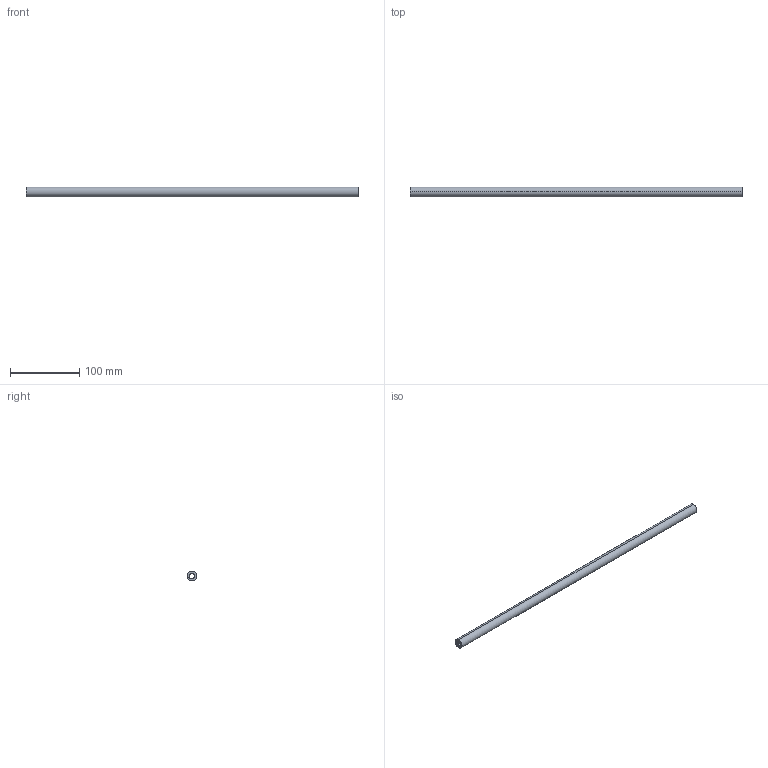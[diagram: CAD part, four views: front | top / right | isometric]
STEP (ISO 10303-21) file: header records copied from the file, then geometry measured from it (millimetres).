
FILE_DESCRIPTION (( 'STEP AP214' ), '1' );
FILE_NAME ('SyncronisationsstangeNova_Pro_KAB_0600_KS16.step', '2009-11-24T08:53:16', ( 'Grass' ), ( 'Grass GmbH' ), 'SwSTEP 2.0', 'SolidWorks 2009', '' );
FILE_SCHEMA (( 'AUTOMOTIVE_DESIGN' ));
Length unit declared in the file: millimetre
Products named in the file (1): SyncronisationsstangeNova_Pro_KAB_0600_KS16
Bounding box: 479 x 14 x 14 mm (x, y, z)
Volume: 51794.1 mm3; surface area: 33489.1 mm2
Topology: 1 solids, 1 shells, 15 faces, 39 edges, 26 vertices
Faces by surface type: cylinder 11, plane 4
Entity records: 513 total; most frequent: DIRECTION 93, CARTESIAN_POINT 81, ORIENTED_EDGE 78, EDGE_CURVE 39, AXIS2_PLACEMENT_3D 38, VERTEX_POINT 26, CIRCLE 22, VECTOR 17
